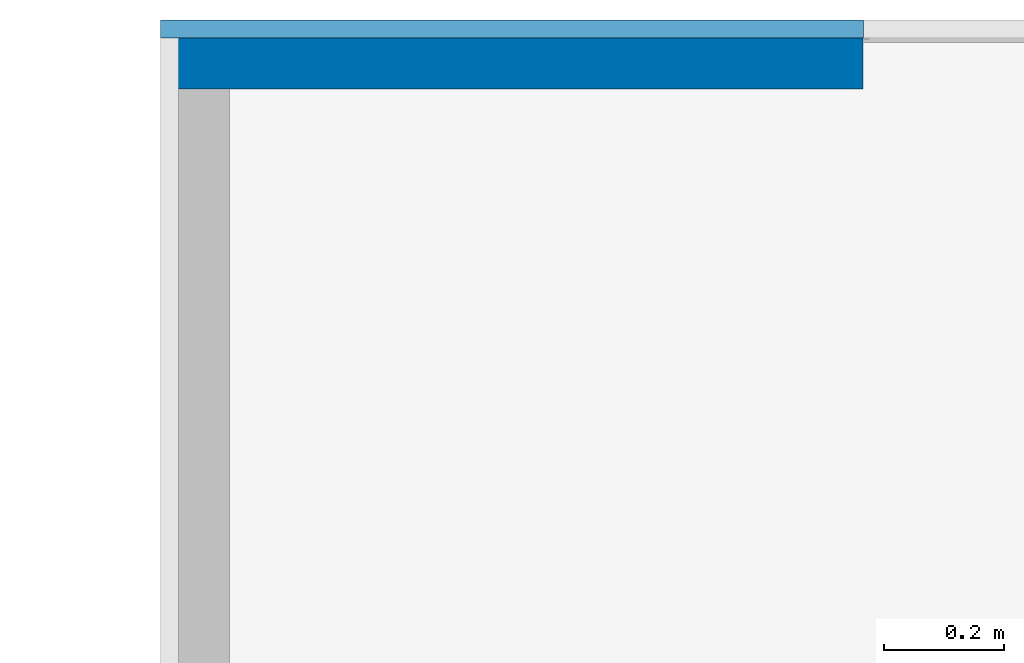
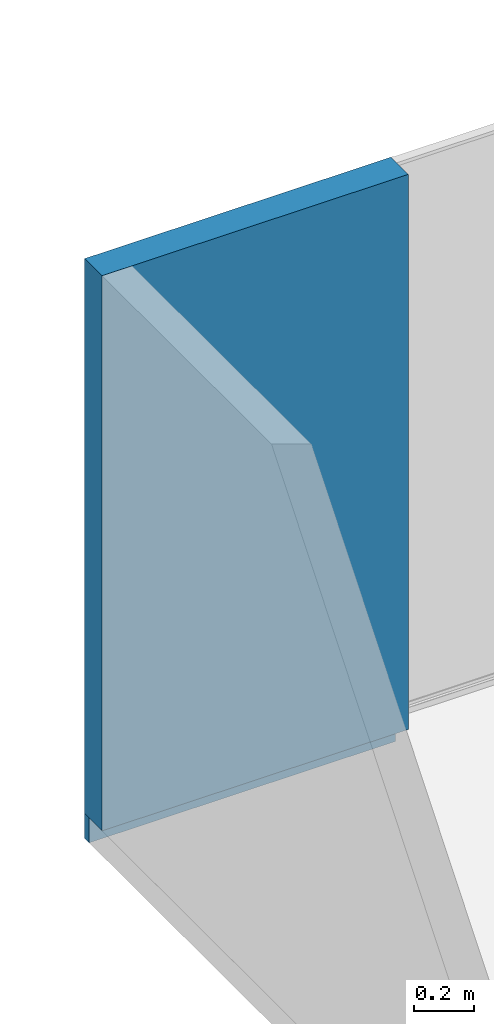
# One storey, part 16 of 47: 2 walls.
"""IFC4 building model written with IfcOpenShell, lengths in metres."""

from ifc_helpers import new_model, entity, si_unit, converted_unit, derived_unit, direction, frame, origin, place, context, subcontext, project, spatial, indexed_curve, outline, extrude, material, type_object, element, save


model = new_model("IFC4")

# Units and contexts
model_context = context("Model", 3, precision=1e-05, world=origin(), true_north=direction((6.123031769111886e-17, 1.0)))
body_context = subcontext(model_context, "Body", "Model", "MODEL_VIEW")
ifc_project = project(units=[si_unit("LENGTHUNIT", "METRE"), si_unit("AREAUNIT", "SQUARE_METRE"), si_unit("VOLUMEUNIT", "CUBIC_METRE"), converted_unit("PLANEANGLEUNIT", "DEGREE", entity("IfcRatioMeasure", 0.017453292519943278), si_unit("PLANEANGLEUNIT", "RADIAN"), dimensions=[0, 0, 0, 0, 0, 0, 0]), si_unit("MASSUNIT", "GRAM", prefix="KILO"), derived_unit("MASSDENSITYUNIT", [(si_unit("MASSUNIT", "GRAM", prefix="KILO"), 1), (si_unit("LENGTHUNIT", "METRE"), -3)]), derived_unit("IONCONCENTRATIONUNIT", [(si_unit("MASSUNIT", "GRAM", prefix="KILO"), 1), (si_unit("LENGTHUNIT", "METRE"), -3)]), derived_unit("MOMENTOFINERTIAUNIT", [(si_unit("LENGTHUNIT", "METRE"), 4)]), si_unit("TIMEUNIT", "SECOND"), si_unit("FREQUENCYUNIT", "HERTZ"), si_unit("THERMODYNAMICTEMPERATUREUNIT", "DEGREE_CELSIUS"), derived_unit("THERMALTRANSMITTANCEUNIT", [(si_unit("MASSUNIT", "GRAM", prefix="KILO"), 1), (si_unit("THERMODYNAMICTEMPERATUREUNIT", "KELVIN"), -1), (si_unit("TIMEUNIT", "SECOND"), -3)]), derived_unit("THERMALCONDUCTANCEUNIT", [(si_unit("MASSUNIT", "GRAM", prefix="KILO"), 1), (si_unit("THERMODYNAMICTEMPERATUREUNIT", "KELVIN"), -1), (si_unit("TIMEUNIT", "SECOND"), -3), (si_unit("LENGTHUNIT", "METRE"), 1)]), derived_unit("VOLUMETRICFLOWRATEUNIT", [(si_unit("LENGTHUNIT", "METRE"), 3), (si_unit("TIMEUNIT", "SECOND"), -1)]), derived_unit("MASSFLOWRATEUNIT", [(si_unit("MASSUNIT", "GRAM", prefix="KILO"), 1), (si_unit("TIMEUNIT", "SECOND"), -1)]), derived_unit("ROTATIONALFREQUENCYUNIT", [(si_unit("TIMEUNIT", "SECOND"), -1)]), si_unit("ELECTRICCURRENTUNIT", "AMPERE"), si_unit("ELECTRICVOLTAGEUNIT", "VOLT"), si_unit("POWERUNIT", "WATT"), si_unit("FORCEUNIT", "NEWTON", prefix="KILO"), si_unit("ILLUMINANCEUNIT", "LUX"), si_unit("LUMINOUSFLUXUNIT", "LUMEN"), si_unit("LUMINOUSINTENSITYUNIT", "CANDELA"), derived_unit("USERDEFINED", [(si_unit("MASSUNIT", "GRAM", prefix="KILO"), -1), (si_unit("LENGTHUNIT", "METRE"), -2), (si_unit("TIMEUNIT", "SECOND"), 3), (si_unit("LUMINOUSFLUXUNIT", "LUMEN"), 1)]), derived_unit("USERDEFINED", [(si_unit("MASSUNIT", "GRAM", prefix="KILO"), 1), (si_unit("TIMEUNIT", "SECOND"), -3), (si_unit("LENGTHUNIT", "METRE"), 3), (si_unit("ELECTRICCURRENTUNIT", "AMPERE"), -2)]), derived_unit("SOUNDPOWERUNIT", [(si_unit("MASSUNIT", "GRAM", prefix="KILO"), 1), (si_unit("TIMEUNIT", "SECOND"), -3), (si_unit("LENGTHUNIT", "METRE"), 2)]), derived_unit("SOUNDPRESSUREUNIT", [(si_unit("MASSUNIT", "GRAM", prefix="KILO"), 1), (si_unit("LENGTHUNIT", "METRE"), -1), (si_unit("TIMEUNIT", "SECOND"), -2)]), derived_unit("LINEARVELOCITYUNIT", [(si_unit("LENGTHUNIT", "METRE"), 1), (si_unit("TIMEUNIT", "SECOND"), -1)]), si_unit("PRESSUREUNIT", "PASCAL"), derived_unit("USERDEFINED", [(si_unit("MASSUNIT", "GRAM", prefix="KILO"), 1), (si_unit("LENGTHUNIT", "METRE"), -2), (si_unit("TIMEUNIT", "SECOND"), -2)]), derived_unit("LINEARFORCEUNIT", [(si_unit("MASSUNIT", "GRAM", prefix="KILO"), 1), (si_unit("TIMEUNIT", "SECOND"), -2)]), derived_unit("PLANARFORCEUNIT", [(si_unit("MASSUNIT", "GRAM", prefix="KILO"), 1), (si_unit("LENGTHUNIT", "METRE"), -1), (si_unit("TIMEUNIT", "SECOND"), -2)]), derived_unit("SPECIFICHEATCAPACITYUNIT", [(si_unit("THERMODYNAMICTEMPERATUREUNIT", "KELVIN"), -1), (si_unit("LENGTHUNIT", "METRE"), 2), (si_unit("TIMEUNIT", "SECOND"), -2)]), derived_unit("HEATINGVALUEUNIT", [(si_unit("LENGTHUNIT", "METRE"), 2), (si_unit("TIMEUNIT", "SECOND"), -2)]), derived_unit("VAPORPERMEABILITYUNIT", [(si_unit("LENGTHUNIT", "METRE"), -1), (si_unit("TIMEUNIT", "SECOND"), 1)]), derived_unit("DYNAMICVISCOSITYUNIT", [(si_unit("MASSUNIT", "GRAM", prefix="KILO"), 1), (si_unit("TIMEUNIT", "SECOND"), -1), (si_unit("LENGTHUNIT", "METRE"), -1)]), derived_unit("THERMALEXPANSIONCOEFFICIENTUNIT", [(si_unit("THERMODYNAMICTEMPERATUREUNIT", "KELVIN"), -1)]), derived_unit("MODULUSOFELASTICITYUNIT", [(si_unit("MASSUNIT", "GRAM", prefix="KILO"), 1), (si_unit("LENGTHUNIT", "METRE"), -1), (si_unit("TIMEUNIT", "SECOND"), -2)]), derived_unit("ISOTHERMALMOISTURECAPACITYUNIT", [(si_unit("LENGTHUNIT", "METRE"), 3), (si_unit("MASSUNIT", "GRAM", prefix="KILO"), -1)]), derived_unit("MOISTUREDIFFUSIVITYUNIT", [(si_unit("TIMEUNIT", "SECOND"), -1), (si_unit("LENGTHUNIT", "METRE"), 2)])], contexts=[model_context])

# Site, building, storey
site_placement = place(None, origin())
site = spatial("IfcSite", under=ifc_project, at=site_placement, Name="Default", CompositionType="ELEMENT")
building_placement = place(site_placement, origin())
building = spatial("IfcBuilding", under=site, at=building_placement, CompositionType="ELEMENT")
storey_placement = place(building_placement, frame((0.0, 0.0, 11.750000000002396)))
storey = spatial("IfcBuildingStorey", under=building, at=storey_placement, Name="Nivel 6", CompositionType="ELEMENT", Elevation=11.750000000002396)

# Walls
ifc_material = material(Name="LADRILLO CLARO", Category="Materials")
wall_type_1 = type_object("IfcWallType", Name="Basic Wall:B2010 - 0.115m - ME mampostería no estructural - Ladrillo", PredefinedType="STANDARD")
wall_1_placement = place(storey_placement, frame((3.091699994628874, -0.03750002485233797, 0.0), z_axis=(0.0, 0.0, 1.0), x_axis=(-1.0, 0.0, 0.0)))
element("IfcWall", 1, at=wall_1_placement, inside=storey, type_object=wall_type_1, material=ifc_material, Name="Basic Wall:B2010 - 0.115m - ME mampostería no estructural - Ladrillo", ObjectType="Basic Wall:B2010 - 0.115m - ME mampostería no estructural - Ladrillo", PredefinedType="NOTDEFINED", context=body_context, shape_type="SweptSolid", body=[
    extrude(outline(indexed_curve([(1.174199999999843, 0.05749999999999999), (-5.076575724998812e-17, 0.05749999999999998), (5.076575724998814e-17, -0.0575), (1.174199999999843, -0.0575), (1.174199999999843, 0.05749999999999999)], self_intersect=False)), origin(), (0.0, 0.0, 1.0), 2.2500000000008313),
])
wall_type_2 = type_object("IfcWallType", Name="Basic Wall:B2010 - 0.03m - ME enchape  no estructural - Ladrillo", PredefinedType="STANDARD")
wall_2_placement = place(storey_placement, frame((3.092499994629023, 0.004999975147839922, -0.10000000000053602), z_axis=(0.0, 0.0, 1.0), x_axis=(-1.0, 0.0, 0.0)))
element("IfcWall", 2, at=wall_2_placement, inside=storey, type_object=wall_type_2, material=ifc_material, Name="Basic Wall:B2010 - 0.03m - ME enchape  no estructural - Ladrillo", ObjectType="Basic Wall:B2010 - 0.03m - ME enchape  no estructural - Ladrillo", PredefinedType="NOTDEFINED", context=body_context, shape_type="SweptSolid", body=[
    extrude(outline(indexed_curve([(1.1750000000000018, 0.015), (-1.4243869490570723e-16, 0.015), (1.4243869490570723e-16, -0.015), (1.175000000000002, -0.015), (1.1750000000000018, 0.015)], self_intersect=False)), origin(), (0.0, 0.0, 1.0), 0.09999999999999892),
])

save(model, "model.ifc")
